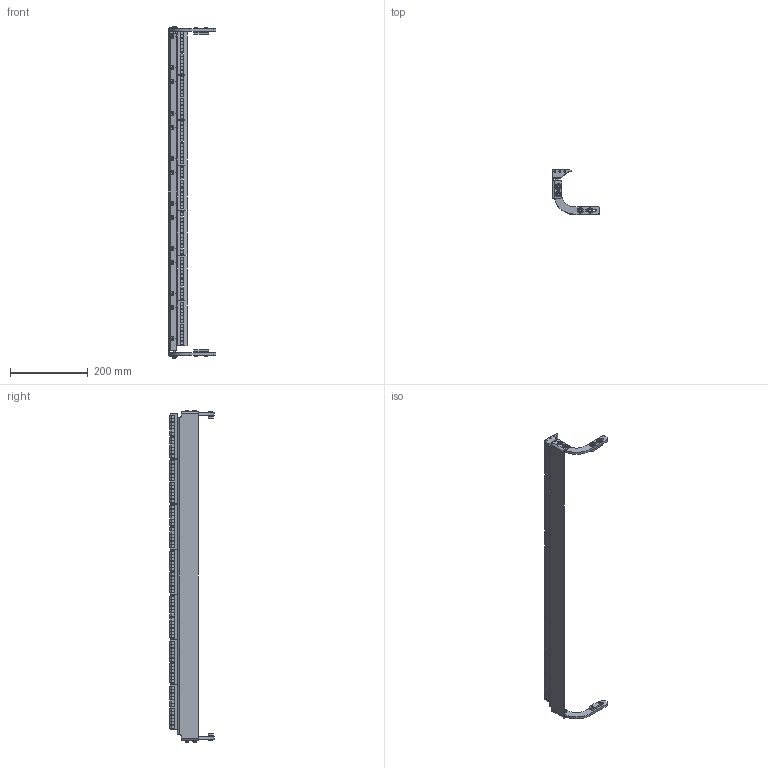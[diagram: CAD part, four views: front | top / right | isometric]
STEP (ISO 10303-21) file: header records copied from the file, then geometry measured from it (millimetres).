
FILE_DESCRIPTION((''),'2;1');
FILE_NAME('518355-32_ASM','2023-03-24T',('jenni.wallner'),(''),'PRO/ENGINEER BY PARAMETRIC TECHNOLOGY CORPORATION, 2012420','PRO/ENGINEER BY PARAMETRIC TECHNOLOGY CORPORATION, 2012420','');
FILE_SCHEMA(('CONFIG_CONTROL_DESIGN'));
Length unit declared in the file: inch
Products named in the file (44): 807-1830_15-1-SOLID1; 807-1830-1-SOLID1; 807-1830_30-1-SOLID1; 807-1830_19-1-SOLID1; 807-1830_31-1-SOLID1; 807-1830_4-1-SOLID1; 807-1830_11-1-SOLID1; 807-1830_5-1-SOLID1; 807-1830_1-1-SOLID1; 807-1830_28-1-SOLID1; 807-1830_24-1-SOLID1; 807-1830_2-1-SOLID1; 807-1830_36-1-SOLID1; 807-1830_3-1-SOLID1; 807-1830_26-1-SOLID1; 807-1830_16-1-SOLID1; 807-1830_32-1-SOLID1; 807-1830_34-1-SOLID1; 807-1830_25-1-SOLID1; 807-1830_13-1-SOLID1; 807-1830_27-1-SOLID1; 807-1830_22-1-SOLID1; 807-1830_23-1-SOLID1; 807-1830_7-1-SOLID1; 807-1830_33-1-SOLID1; 807-1830_6-1-SOLID1; 807-1830_14-1-SOLID1; 807-1830_35-1-SOLID1; 807-1830_8-1-SOLID1; 807-1830_18-1-SOLID1; 807-1830_21-1-SOLID1; 807-1830_10-1-SOLID1; 807-1830_20-1-SOLID1; 807-1830_12-1-SOLID1; 807-1830_17-1-SOLID1; 807-1830_29-1-SOLID1; 807-1830_9-1-SOLID1; 807-1830_ASM; 960616MSSF; 532387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
Assembly tree (58 placements, depth 4):
  518355-32_ASM
    ASM0001_ASM
      807-1830_ASM  x7
        807-1830_15-1-SOLID1
        807-1830-1-SOLID1
        807-1830_30-1-SOLID1
        807-1830_19-1-SOLID1
        807-1830_31-1-SOLID1
        807-1830_4-1-SOLID1
        807-1830_11-1-SOLID1
        807-1830_5-1-SOLID1
        807-1830_1-1-SOLID1
        807-1830_28-1-SOLID1
        807-1830_24-1-SOLID1
        807-1830_2-1-SOLID1
        807-1830_36-1-SOLID1
        807-1830_3-1-SOLID1
        807-1830_26-1-SOLID1
        807-1830_16-1-SOLID1
        807-1830_32-1-SOLID1
        807-1830_34-1-SOLID1
        807-1830_25-1-SOLID1
        807-1830_13-1-SOLID1
        807-1830_27-1-SOLID1
        807-1830_22-1-SOLID1
        807-1830_23-1-SOLID1
        807-1830_7-1-SOLID1
        807-1830_33-1-SOLID1
        807-1830_6-1-SOLID1
        807-1830_14-1-SOLID1
        807-1830_35-1-SOLID1
        807-1830_8-1-SOLID1
        807-1830_18-1-SOLID1
        807-1830_21-1-SOLID1
        807-1830_10-1-SOLID1
        807-1830_20-1-SOLID1
        807-1830_12-1-SOLID1
        807-1830_17-1-SOLID1
        807-1830_29-1-SOLID1
        807-1830_9-1-SOLID1
      960616MSSF  x8
      532387  x2
      518353-WW_518353-32
      520309  x2
Bounding box: 122.82 x 114.68 x 851.32 mm (x, y, z)
Volume: 631816.9 mm3; surface area: 383386 mm2
Topology: 272 solids, 272 shells, 1780 faces, 3490 edges, 2306 vertices
Faces by surface type: plane 888, cylinder 832, cone 60
Entity records: 11473 total; most frequent: DIRECTION 2192, CARTESIAN_POINT 1873, ORIENTED_EDGE 1568, AXIS2_PLACEMENT_3D 900, EDGE_CURVE 784, VERTEX_POINT 518, EDGE_LOOP 426, VECTOR 392
